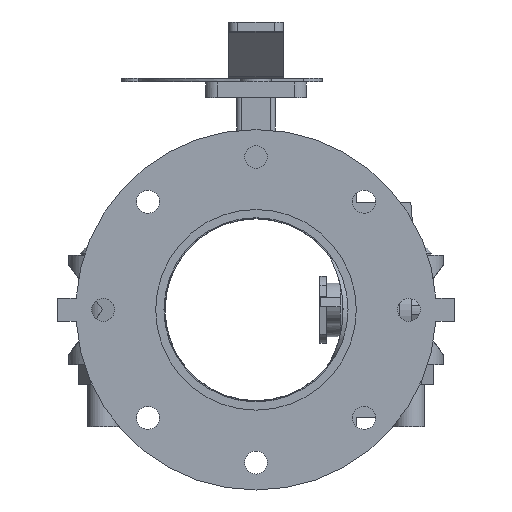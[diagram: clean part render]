
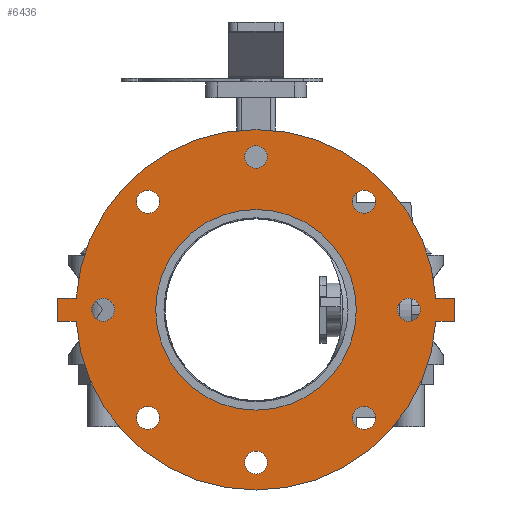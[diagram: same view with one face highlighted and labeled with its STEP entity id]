
A CAD part, front view. The second image highlights one B-rep face of the part: STEP entity #6436.
In plain terms, the highlighted planar face has unit normal (0, -1, 0) as drawn and (0, 0, -1) by its records, which use the part's own axes.
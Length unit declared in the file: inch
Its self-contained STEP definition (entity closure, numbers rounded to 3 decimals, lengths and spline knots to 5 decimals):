
#146=FACE_BOUND('',#793,.T.);
#147=FACE_BOUND('',#794,.T.);
#148=FACE_BOUND('',#795,.T.);
#149=FACE_BOUND('',#796,.T.);
#150=FACE_BOUND('',#797,.T.);
#151=FACE_BOUND('',#798,.T.);
#152=FACE_BOUND('',#799,.T.);
#153=FACE_BOUND('',#800,.T.);
#154=FACE_BOUND('',#801,.T.);
#225=PLANE('',#6958);
#437=FACE_OUTER_BOUND('',#792,.T.);
#792=EDGE_LOOP('',(#4185,#4186,#4187,#4188,#4189,#4190,#4191,#4192));
#793=EDGE_LOOP('',(#4193));
#794=EDGE_LOOP('',(#4194));
#795=EDGE_LOOP('',(#4195));
#796=EDGE_LOOP('',(#4196));
#797=EDGE_LOOP('',(#4197));
#798=EDGE_LOOP('',(#4198));
#799=EDGE_LOOP('',(#4199));
#800=EDGE_LOOP('',(#4200));
#801=EDGE_LOOP('',(#4201));
#1205=LINE('',#9709,#1714);
#1208=LINE('',#9715,#1717);
#1211=LINE('',#9720,#1720);
#1213=LINE('',#9725,#1722);
#1217=LINE('',#9732,#1726);
#1219=LINE('',#9735,#1728);
#1714=VECTOR('',#7737,0.3937);
#1717=VECTOR('',#7742,0.3937);
#1720=VECTOR('',#7747,0.3937);
#1722=VECTOR('',#7751,0.3937);
#1726=VECTOR('',#7757,0.3937);
#1728=VECTOR('',#7761,0.3937);
#2211=CIRCLE('',#6920,0.315);
#2213=CIRCLE('',#6923,0.315);
#2215=CIRCLE('',#6926,0.315);
#2217=CIRCLE('',#6929,0.315);
#2219=CIRCLE('',#6932,0.315);
#2221=CIRCLE('',#6935,0.315);
#2223=CIRCLE('',#6938,0.315);
#2225=CIRCLE('',#6941,0.315);
#2226=CIRCLE('',#6943,2.75);
#2228=CIRCLE('',#6946,4.94);
#2231=CIRCLE('',#6950,4.94);
#2566=VERTEX_POINT('',#9638);
#2568=VERTEX_POINT('',#9644);
#2570=VERTEX_POINT('',#9650);
#2572=VERTEX_POINT('',#9656);
#2574=VERTEX_POINT('',#9662);
#2576=VERTEX_POINT('',#9668);
#2578=VERTEX_POINT('',#9674);
#2580=VERTEX_POINT('',#9680);
#2581=VERTEX_POINT('',#9684);
#2583=VERTEX_POINT('',#9690);
#2585=VERTEX_POINT('',#9693);
#2587=VERTEX_POINT('',#9699);
#2590=VERTEX_POINT('',#9704);
#2591=VERTEX_POINT('',#9708);
#2593=VERTEX_POINT('',#9714);
#2595=VERTEX_POINT('',#9723);
#2596=VERTEX_POINT('',#9724);
#3182=EDGE_CURVE('',#2566,#2566,#2211,.T.);
#3185=EDGE_CURVE('',#2568,#2568,#2213,.T.);
#3188=EDGE_CURVE('',#2570,#2570,#2215,.T.);
#3191=EDGE_CURVE('',#2572,#2572,#2217,.T.);
#3194=EDGE_CURVE('',#2574,#2574,#2219,.T.);
#3197=EDGE_CURVE('',#2576,#2576,#2221,.T.);
#3200=EDGE_CURVE('',#2578,#2578,#2223,.T.);
#3203=EDGE_CURVE('',#2580,#2580,#2225,.T.);
#3204=EDGE_CURVE('',#2581,#2581,#2226,.T.);
#3208=EDGE_CURVE('',#2583,#2585,#2228,.T.);
#3214=EDGE_CURVE('',#2590,#2587,#2231,.T.);
#3215=EDGE_CURVE('',#2585,#2591,#1205,.T.);
#3218=EDGE_CURVE('',#2593,#2590,#1208,.T.);
#3221=EDGE_CURVE('',#2591,#2593,#1211,.T.);
#3223=EDGE_CURVE('',#2595,#2596,#1213,.T.);
#3227=EDGE_CURVE('',#2587,#2595,#1217,.T.);
#3229=EDGE_CURVE('',#2596,#2583,#1219,.T.);
#4185=ORIENTED_EDGE('',*,*,#3229,.F.);
#4186=ORIENTED_EDGE('',*,*,#3223,.F.);
#4187=ORIENTED_EDGE('',*,*,#3227,.F.);
#4188=ORIENTED_EDGE('',*,*,#3214,.F.);
#4189=ORIENTED_EDGE('',*,*,#3218,.F.);
#4190=ORIENTED_EDGE('',*,*,#3221,.F.);
#4191=ORIENTED_EDGE('',*,*,#3215,.F.);
#4192=ORIENTED_EDGE('',*,*,#3208,.F.);
#4193=ORIENTED_EDGE('',*,*,#3182,.T.);
#4194=ORIENTED_EDGE('',*,*,#3185,.T.);
#4195=ORIENTED_EDGE('',*,*,#3188,.T.);
#4196=ORIENTED_EDGE('',*,*,#3191,.T.);
#4197=ORIENTED_EDGE('',*,*,#3194,.T.);
#4198=ORIENTED_EDGE('',*,*,#3197,.T.);
#4199=ORIENTED_EDGE('',*,*,#3200,.T.);
#4200=ORIENTED_EDGE('',*,*,#3203,.T.);
#4201=ORIENTED_EDGE('',*,*,#3204,.T.);
#6436=ADVANCED_FACE('',(#437,#146,#147,#148,#149,#150,#151,#152,#153,#154),
#225,.F.);
#6920=AXIS2_PLACEMENT_3D('',#9640,#7661,#7662);
#6923=AXIS2_PLACEMENT_3D('',#9646,#7668,#7669);
#6926=AXIS2_PLACEMENT_3D('',#9652,#7675,#7676);
#6929=AXIS2_PLACEMENT_3D('',#9658,#7682,#7683);
#6932=AXIS2_PLACEMENT_3D('',#9664,#7689,#7690);
#6935=AXIS2_PLACEMENT_3D('',#9670,#7696,#7697);
#6938=AXIS2_PLACEMENT_3D('',#9676,#7703,#7704);
#6941=AXIS2_PLACEMENT_3D('',#9682,#7710,#7711);
#6943=AXIS2_PLACEMENT_3D('',#9685,#7714,#7715);
#6946=AXIS2_PLACEMENT_3D('',#9694,#7722,#7723);
#6950=AXIS2_PLACEMENT_3D('',#9706,#7733,#7734);
#6958=AXIS2_PLACEMENT_3D('',#9738,#7765,#7766);
#7661=DIRECTION('center_axis',(0.,0.,1.));
#7662=DIRECTION('ref_axis',(-0.707,-0.707,0.));
#7668=DIRECTION('center_axis',(0.,0.,1.));
#7669=DIRECTION('ref_axis',(-1.,0.,0.));
#7675=DIRECTION('center_axis',(0.,0.,1.));
#7676=DIRECTION('ref_axis',(-0.707,0.707,0.));
#7682=DIRECTION('center_axis',(0.,0.,1.));
#7683=DIRECTION('ref_axis',(0.,1.,0.));
#7689=DIRECTION('center_axis',(0.,0.,1.));
#7690=DIRECTION('ref_axis',(0.707,0.707,0.));
#7696=DIRECTION('center_axis',(0.,0.,1.));
#7697=DIRECTION('ref_axis',(1.,0.,0.));
#7703=DIRECTION('center_axis',(0.,0.,1.));
#7704=DIRECTION('ref_axis',(0.707,-0.707,0.));
#7710=DIRECTION('center_axis',(0.,0.,1.));
#7711=DIRECTION('ref_axis',(0.,-1.,0.));
#7714=DIRECTION('center_axis',(0.,0.,1.));
#7715=DIRECTION('ref_axis',(0.,-1.,0.));
#7722=DIRECTION('center_axis',(0.,0.,1.));
#7723=DIRECTION('ref_axis',(0.,1.,0.));
#7733=DIRECTION('center_axis',(0.,0.,1.));
#7734=DIRECTION('ref_axis',(0.,1.,0.));
#7737=DIRECTION('',(0.,-1.,0.));
#7742=DIRECTION('',(0.,1.,0.));
#7747=DIRECTION('',(1.,0.,0.));
#7751=DIRECTION('',(-1.,0.,0.));
#7757=DIRECTION('',(0.,1.,0.));
#7761=DIRECTION('',(0.,-1.,0.));
#7765=DIRECTION('center_axis',(0.,0.,1.));
#7766=DIRECTION('ref_axis',(0.,1.,0.));
#9638=CARTESIAN_POINT('',(-2.74004,3.18552,0.));
#9640=CARTESIAN_POINT('Origin',(-2.96278,2.96278,0.));
#9644=CARTESIAN_POINT('',(0.315,4.19,0.));
#9646=CARTESIAN_POINT('Origin',(0.,4.19,0.));
#9650=CARTESIAN_POINT('',(3.18552,2.74004,0.));
#9652=CARTESIAN_POINT('Origin',(2.96278,2.96278,0.));
#9656=CARTESIAN_POINT('',(4.19,-0.315,0.));
#9658=CARTESIAN_POINT('Origin',(4.19,0.,0.));
#9662=CARTESIAN_POINT('',(2.74004,-3.18552,0.));
#9664=CARTESIAN_POINT('Origin',(2.96278,-2.96278,0.));
#9668=CARTESIAN_POINT('',(-0.315,-4.19,0.));
#9670=CARTESIAN_POINT('Origin',(0.,-4.19,0.));
#9674=CARTESIAN_POINT('',(-3.18552,-2.74004,0.));
#9676=CARTESIAN_POINT('Origin',(-2.96278,-2.96278,0.));
#9680=CARTESIAN_POINT('',(-4.19,0.315,0.));
#9682=CARTESIAN_POINT('Origin',(-4.19,0.,0.));
#9684=CARTESIAN_POINT('',(0.,2.75,0.));
#9685=CARTESIAN_POINT('Origin',(0.,0.,0.));
#9690=CARTESIAN_POINT('',(-0.32,4.92962,0.));
#9693=CARTESIAN_POINT('',(-0.32,-4.92962,0.));
#9694=CARTESIAN_POINT('Origin',(0.,0.,0.));
#9699=CARTESIAN_POINT('',(0.32,4.92962,0.));
#9704=CARTESIAN_POINT('',(0.32,-4.92962,0.));
#9706=CARTESIAN_POINT('Origin',(0.,0.,0.));
#9708=CARTESIAN_POINT('',(-0.32,-5.44,0.));
#9709=CARTESIAN_POINT('',(-0.32,-4.92962,0.));
#9714=CARTESIAN_POINT('',(0.32,-5.44,0.));
#9715=CARTESIAN_POINT('',(0.32,-5.44,0.));
#9720=CARTESIAN_POINT('',(-0.32,-5.44,0.));
#9723=CARTESIAN_POINT('',(0.32,5.44,0.));
#9724=CARTESIAN_POINT('',(-0.32,5.44,0.));
#9725=CARTESIAN_POINT('',(0.32,5.44,0.));
#9732=CARTESIAN_POINT('',(0.32,4.92962,0.));
#9735=CARTESIAN_POINT('',(-0.32,5.44,0.));
#9738=CARTESIAN_POINT('Origin',(0.,5.20539,0.));
